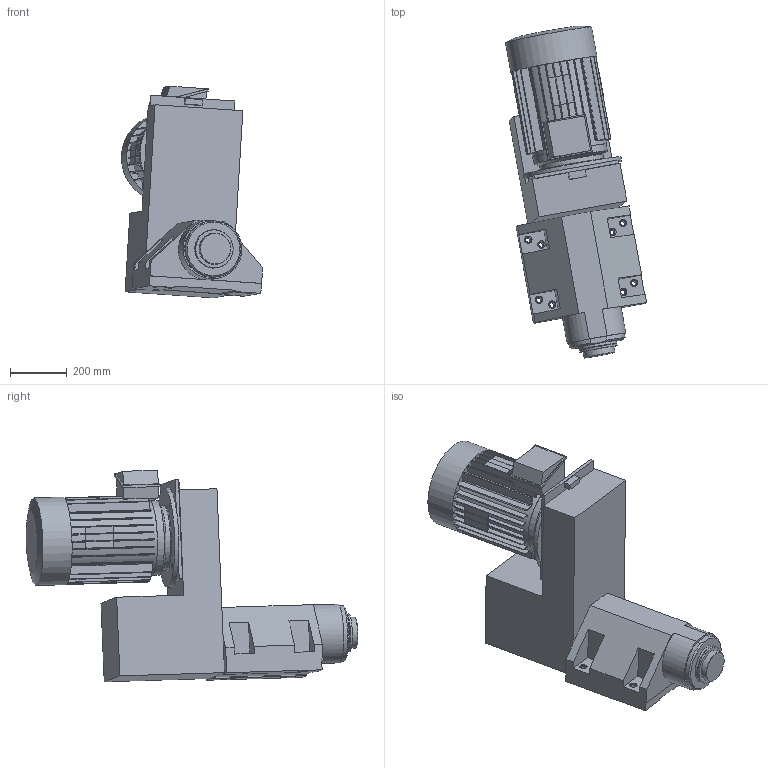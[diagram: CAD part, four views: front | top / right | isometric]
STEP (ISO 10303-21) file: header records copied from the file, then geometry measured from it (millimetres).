
FILE_DESCRIPTION((''),'2;1');
FILE_NAME('C:\VaultWork\Zeichnungen\Maßblätter\BF5b\BF01395-1-0 Maßblatt BF5b SK50 mit Werkzeugspanner.stp','2009-05-05T13:32:44',('Test'),(''),'Autodesk Inventor 2008','Autodesk Inventor 2008','');
FILE_SCHEMA(('AUTOMOTIVE_DESIGN { 1 0 10303 214 1 1 1 1 }'));
Length unit declared in the file: millimetre
Products named in the file (1): Bauteil3
Bounding box: 497.7 x 1169.87 x 745.79 mm (x, y, z)
Volume: 109636738.9 mm3; surface area: 2830114.7 mm2
Topology: 4 solids, 4 shells, 347 faces, 949 edges, 611 vertices
Faces by surface type: plane 267, cylinder 50, bspline 24, cone 6
Full cylindrical faces by diameter (mm): 18.5 x4, 45 x1, 110 x1, 122 x1, 128 x1, 128.5 x1, 134 x1, 135 x1, 228 x1, 238 x1, 263 x1, 264 x1, 309.4 x1, 350 x1
Entity records: 11311 total; most frequent: CARTESIAN_POINT 2157, ORIENTED_EDGE 1810, DIRECTION 1758, EDGE_CURVE 905, VECTOR 698, LINE 698, VERTEX_POINT 606, AXIS2_PLACEMENT_3D 530
